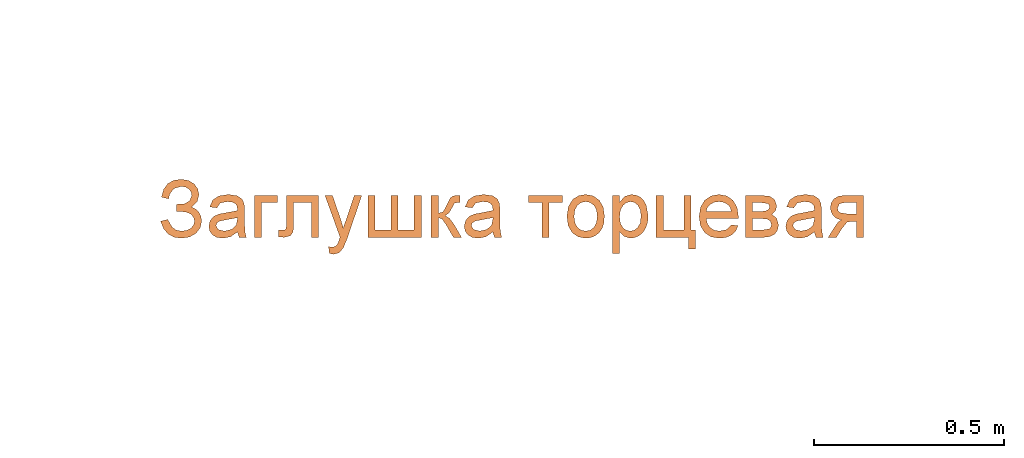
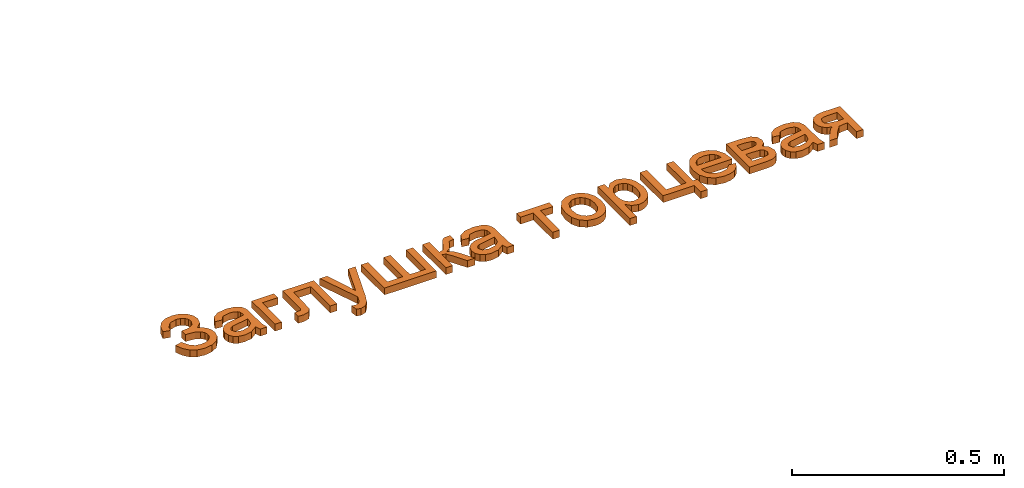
# One storey, part 23 of 87: 1 proxy.
"""IFC2X3 building model written with IfcOpenShell, lengths in millimetres."""

import ifcopenshell
import ifcopenshell.guid

model = None  # the IFC model being written
_history = None  # IfcOwnerHistory: only IFC2X3 demands one
_inside = {}  # id of a spatial element -> (the spatial element, [elements in it])
_under = {}  # id of a project, library or spatial element -> (it, [spatial elements below it])
_declared = {}  # id of a project -> (the project, [libraries it declares])
_typed = {}  # id of a type object -> (the type object, [elements of that type])
_made_of = {}  # id of a material, layer set ... -> (it, [elements and type objects made of it])


def new_model(schema):
    """Start an empty IFC model of exactly this schema.

    Asked for "IFC4X3", IfcOpenShell would pick the latest addendum, in which some entities
    have other attributes; the version numbers below select the first issue.
    IFC2X3 requires an IfcOwnerHistory on every rooted entity: one is made here for all.
    """
    global model, _history
    if schema == "IFC4X3":
        model = ifcopenshell.file(schema_version=(4, 3, 0, 0))
    else:
        model = ifcopenshell.file(schema=schema)
    _inside.clear()
    _under.clear()
    _declared.clear()
    _typed.clear()
    _made_of.clear()
    _history = None
    if model.schema == "IFC2X3":
        org = make("IfcOrganization", Name="unknown")
        user = make(
            "IfcPersonAndOrganization",
            ThePerson=make("IfcPerson", FamilyName="unknown"),
            TheOrganization=org,
        )
        app = make(
            "IfcApplication",
            ApplicationDeveloper=org,
            Version="unknown",
            ApplicationFullName="unknown",
            ApplicationIdentifier="unknown",
        )
        _history = make(
            "IfcOwnerHistory",
            OwningUser=user,
            OwningApplication=app,
            ChangeAction="ADDED",
            CreationDate=0,
        )
    return model


def make(cls, **values):
    """One entity of the class cls with the attributes given. An attribute that is None is left unset."""
    return model.create_entity(
        cls, **{name: value for name, value in values.items() if value is not None}
    )


def entity(cls, *values):
    """Any entity or typed value of the class cls, its attributes in the order of the schema. None: left unset."""
    e = model.create_entity(cls)
    for i, value in enumerate(values):
        if value is not None:
            e[i] = value
    return e


def rooted(cls, **values):
    """An entity with a GlobalId (a new one), such as an element, a storey or a relation."""
    return make(cls, GlobalId=ifcopenshell.guid.new(), OwnerHistory=_history, **values)


def si_unit(unit_type, name, prefix=None):
    """IfcSIUnit, for example si_unit("LENGTHUNIT", "METRE", prefix="MILLI")."""
    return make("IfcSIUnit", UnitType=unit_type, Prefix=prefix, Name=name)


def converted_unit(unit_type, name, factor, base, dimensions=None, offset=None):
    """IfcConversionBasedUnit, such as the inch: factor (a typed value) times the base unit."""
    return make(
        "IfcConversionBasedUnit"
        if offset is None
        else "IfcConversionBasedUnitWithOffset",
        ConversionOffset=offset,
        Dimensions=None
        if dimensions is None
        else entity("IfcDimensionalExponents", *dimensions),
        UnitType=unit_type,
        Name=name,
        ConversionFactor=make(
            "IfcMeasureWithUnit", ValueComponent=factor, UnitComponent=base
        ),
    )


def derived_unit(unit_type, elements):
    """IfcDerivedUnit: a product of units, each with its exponent."""
    return make(
        "IfcDerivedUnit",
        Elements=[
            make("IfcDerivedUnitElement", Unit=unit, Exponent=power)
            for unit, power in elements
        ],
        UnitType=unit_type,
    )


def assignment(units):
    """IfcUnitAssignment: the units of a project."""
    return None if units is None else make("IfcUnitAssignment", Units=units)


def point(xyz):
    """IfcCartesianPoint."""
    return None if xyz is None else make("IfcCartesianPoint", Coordinates=xyz)


def direction(xyz):
    """IfcDirection."""
    return None if xyz is None else make("IfcDirection", DirectionRatios=xyz)


def frame(location, z_axis=None, x_axis=None):
    """IfcAxis2Placement3D, a coordinate frame: its origin and axes. An axis left out is left unset."""
    return make(
        "IfcAxis2Placement3D",
        Location=point(location),
        Axis=direction(z_axis),
        RefDirection=direction(x_axis),
    )


def origin():
    """The frame at (0, 0, 0) with its axes left unset."""
    return frame((0.0, 0.0, 0.0))


def place(relative_to, where):
    """IfcLocalPlacement: puts the frame where relative to a parent placement (None: the world)."""
    return make(
        "IfcLocalPlacement", PlacementRelTo=relative_to, RelativePlacement=where
    )


def context(
    kind, dimensions, precision=None, world=None, true_north=None, identifier=None
):
    """IfcGeometricRepresentationContext, for example the 3D "Model" context."""
    return make(
        "IfcGeometricRepresentationContext",
        ContextIdentifier=identifier,
        ContextType=kind,
        CoordinateSpaceDimension=dimensions,
        Precision=precision,
        WorldCoordinateSystem=world,
        TrueNorth=true_north,
    )


def subcontext(parent, identifier, kind, view, scale=None):
    """IfcGeometricRepresentationSubContext, for example "Body" below "Model"."""
    return make(
        "IfcGeometricRepresentationSubContext",
        ContextIdentifier=identifier,
        ContextType=kind,
        ParentContext=parent,
        TargetScale=scale,
        TargetView=view,
    )


def project(units=None, contexts=None):
    """IfcProject with its units and contexts."""
    return rooted(
        "IfcProject",
        Name="project",
        RepresentationContexts=contexts,
        UnitsInContext=assignment(units),
    )


def spatial(cls, under=None, at=None, **own):
    """A site, building, storey or space (cls), placed at a placement, below another one or the project."""
    s = rooted(cls, ObjectPlacement=at, **own)
    if under is not None:
        _under.setdefault(under.id(), (under, []))[1].append(s)
    return s


def polyline(points):
    """IfcPolyline through the points."""
    return make("IfcPolyline", Points=[point(p) for p in points])


def outline(outer, holes=None, kind="AREA"):
    """IfcArbitraryClosedProfileDef: a profile drawn as a closed curve; with holes, ...WithVoids."""
    if holes is None:
        return make("IfcArbitraryClosedProfileDef", ProfileType=kind, OuterCurve=outer)
    return make(
        "IfcArbitraryProfileDefWithVoids",
        ProfileType=kind,
        OuterCurve=outer,
        InnerCurves=holes,
    )


def extrude(swept, where, along, depth):
    """IfcExtrudedAreaSolid: the profile swept, set in the frame where, extruded along a direction by depth."""
    return make(
        "IfcExtrudedAreaSolid",
        SweptArea=swept,
        Position=where,
        ExtrudedDirection=direction(along),
        Depth=depth,
    )


def shape(context_of_items, identifier, shape_type, items):
    """IfcShapeRepresentation: the items that make up one representation, for example the "Body"."""
    return make(
        "IfcShapeRepresentation",
        ContextOfItems=context_of_items,
        RepresentationIdentifier=identifier,
        RepresentationType=shape_type,
        Items=items,
    )


def made_of(thing, what):
    """Note that an element or type object is made of a material, layer set ...; save() writes the relation."""
    if what is not None:
        _made_of.setdefault(what.id(), (what, []))[1].append(thing)
    return thing


def element(
    cls,
    number,
    at=None,
    inside=None,
    cuts=None,
    type_object=None,
    material=None,
    context=None,
    identifier="Body",
    shape_type=None,
    held_by="IfcProductDefinitionShape",
    body=None,
    shapes=None,
    **own,
):
    """One element of the class cls, such as IfcWall. Its Tag is "e" and its number.

    at: its placement. inside: the storey or other place that contains it. cuts: it is an
    opening in that element (IfcRelVoidsElement). A single representation is given by context,
    identifier, shape_type and body (its items); several are given by shapes. held_by: the class
    of the entity that holds the representations. save() writes the other relations.
    """
    e = rooted(cls, Tag="e%d" % number, ObjectPlacement=at, **own)
    if body is not None:
        shapes = [shape(context, identifier, shape_type, body)]
    if shapes is not None:
        e.Representation = make(held_by, Representations=shapes)
    if inside is not None:
        _inside.setdefault(inside.id(), (inside, []))[1].append(e)
    if cuts is not None:
        rooted(
            "IfcRelVoidsElement", RelatingBuildingElement=cuts, RelatedOpeningElement=e
        )
    if type_object is not None:
        _typed.setdefault(type_object.id(), (type_object, []))[1].append(e)
    return made_of(e, material)


def aggregate(whole, parts):
    """IfcRelAggregates: a whole, such as a stair, and the parts it consists of."""
    return rooted("IfcRelAggregates", RelatingObject=whole, RelatedObjects=parts)


def save(model, path):
    """Write the relations noted so far, then the file.

    IfcRelAggregates (storeys below a building ...), IfcRelContainedInSpatialStructure (elements
    in a storey), IfcRelDefinesByType, IfcRelAssociatesMaterial and IfcRelDeclares: one each for
    every whole, place, type object, material and project.
    """
    for whole, parts in _under.values():
        aggregate(whole, parts)
    for where, things in _inside.values():
        rooted(
            "IfcRelContainedInSpatialStructure",
            RelatedElements=things,
            RelatingStructure=where,
        )
    for kind, things in _typed.values():
        rooted("IfcRelDefinesByType", RelatedObjects=things, RelatingType=kind)
    for what, things in _made_of.values():
        rooted("IfcRelAssociatesMaterial", RelatedObjects=things, RelatingMaterial=what)
    for by, libraries in _declared.values():
        rooted("IfcRelDeclares", RelatingContext=by, RelatedDefinitions=libraries)
    model.write(path)


model = new_model("IFC2X3")

# Units and contexts
model_context = context("Model", 3, precision=0.01, world=origin(), true_north=direction((6.12303176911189e-17, 1.0)))
body_context = subcontext(model_context, "Body", "Model", "MODEL_VIEW")
ifc_project = project(units=[si_unit("LENGTHUNIT", "METRE", prefix="MILLI"), si_unit("AREAUNIT", "SQUARE_METRE"), si_unit("VOLUMEUNIT", "CUBIC_METRE"), converted_unit("PLANEANGLEUNIT", "DEGREE", entity("IfcRatioMeasure", 0.0174532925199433), si_unit("PLANEANGLEUNIT", "RADIAN"), dimensions=[0, 0, 0, 0, 0, 0, 0]), si_unit("MASSUNIT", "GRAM", prefix="KILO"), derived_unit("MASSDENSITYUNIT", [(si_unit("MASSUNIT", "GRAM", prefix="KILO"), 1), (si_unit("LENGTHUNIT", "METRE"), -3)]), si_unit("TIMEUNIT", "SECOND"), si_unit("FREQUENCYUNIT", "HERTZ"), si_unit("THERMODYNAMICTEMPERATUREUNIT", "DEGREE_CELSIUS"), derived_unit("THERMALTRANSMITTANCEUNIT", [(si_unit("MASSUNIT", "GRAM", prefix="KILO"), 1), (si_unit("THERMODYNAMICTEMPERATUREUNIT", "KELVIN"), -1), (si_unit("TIMEUNIT", "SECOND"), -3)]), derived_unit("VOLUMETRICFLOWRATEUNIT", [(si_unit("LENGTHUNIT", "METRE"), 3), (si_unit("TIMEUNIT", "SECOND"), -1)]), si_unit("ELECTRICCURRENTUNIT", "AMPERE"), si_unit("ELECTRICVOLTAGEUNIT", "VOLT"), si_unit("POWERUNIT", "WATT"), si_unit("FORCEUNIT", "NEWTON", prefix="KILO"), si_unit("ILLUMINANCEUNIT", "LUX"), si_unit("LUMINOUSFLUXUNIT", "LUMEN"), si_unit("LUMINOUSINTENSITYUNIT", "CANDELA"), derived_unit("USERDEFINED", [(si_unit("MASSUNIT", "GRAM", prefix="KILO"), -1), (si_unit("LENGTHUNIT", "METRE"), -2), (si_unit("TIMEUNIT", "SECOND"), 3), (si_unit("LUMINOUSFLUXUNIT", "LUMEN"), 1)]), derived_unit("LINEARVELOCITYUNIT", [(si_unit("LENGTHUNIT", "METRE"), 1), (si_unit("TIMEUNIT", "SECOND"), -1)]), si_unit("PRESSUREUNIT", "PASCAL"), derived_unit("USERDEFINED", [(si_unit("LENGTHUNIT", "METRE"), -2), (si_unit("MASSUNIT", "GRAM", prefix="KILO"), 1), (si_unit("TIMEUNIT", "SECOND"), -2)])], contexts=[model_context])

# Site, building, storey
site_placement = place(None, origin())
site = spatial("IfcSite", under=ifc_project, at=site_placement, Name="Default", CompositionType="ELEMENT")
building_placement = place(site_placement, origin())
building = spatial("IfcBuilding", under=site, at=building_placement, Name="Наименование здания", CompositionType="ELEMENT")
storey_placement = place(building_placement, origin())
storey = spatial("IfcBuildingStorey", under=building, at=storey_placement, Name="Этаж 01", CompositionType="ELEMENT", Elevation=0.0)

# Proxy
proxy_placement = place(storey_placement, origin())
element("IfcBuildingElementProxy", 1, at=proxy_placement, inside=storey, Name="Текст модели:150 мм Arial", ObjectType="Текст модели:150 мм Arial", context=body_context, shape_type="SweptSolid", body=[
    extrude(outline(polyline([(6.4716175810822, -69.0212528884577), (27.6609359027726, -69.0212528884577), (45.0883237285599, -63.4972240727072), (58.7537810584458, -52.449166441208), (68.6573078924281, -35.8770799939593), (74.0512365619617, -14.3469748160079), (71.5654100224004, 5.25502871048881), (62.26089234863, 21.0946147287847), (47.198747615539, 31.3374673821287), (34.7435158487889, 34.4245924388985), (22.5903035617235, 33.2242089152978), (11.7653973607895, 28.3858634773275), (3.29508385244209, 20.5591027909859), (-3.8895451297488, 39.5517960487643), (-19.2191274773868, 51.2498673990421), (-34.5984709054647, 54.201108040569), (-50.4951132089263, 50.5063592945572), (-64.6841945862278, 40.2481258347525), (-74.9408552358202, 23.508912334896), (-79.9269719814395, 3.81351222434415), (-77.6558490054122, -13.7502430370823), (-68.1274863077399, -29.1823534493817), (-51.3418838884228, -42.4828190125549), (-39.7736651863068, -26.8902500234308), (-50.8769148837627, -18.9970900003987), (-59.8620682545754, -3.35972386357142), (-57.4730653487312, 16.4599122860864), (-51.4311229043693, 26.4493668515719), (-43.1748792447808, 32.632369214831), (-33.960682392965, 34.9327897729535), (-25.044880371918, 33.2744989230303), (-14.0492923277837, 22.578199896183), (-11.8439649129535, 7.54353942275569), (-18.6044381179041, -12.7324671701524), (-1.20714525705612, -19.9513626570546), (2.58559475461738, -10.810988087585), (10.0927476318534, 2.75756776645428), (19.4171629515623, 11.6588093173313), (29.8017800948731, 15.4600700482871), (40.4895384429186, 13.7286834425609), (48.9026459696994, 7.76330771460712), (54.0943068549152, -1.81417037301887), (55.2607991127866, -14.0130640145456), (51.598400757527, -27.842686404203), (43.8780402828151, -39.7893356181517), (32.616856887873, -46.950933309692), (9.34118985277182, -49.8192361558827), (6.4716175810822, -69.0212528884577)])), frame((8644.28769079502, -17489.3208747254, 0.0), z_axis=(0.0, 0.0, 1.0), x_axis=(0.383258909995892, -0.923640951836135, 0.0)), (0.0, 0.0, 1.0), 20.0),
    extrude(outline(polyline([(49.6524096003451, 10.0181831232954), (64.5432257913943, 10.0181831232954), (70.4995522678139, 27.8871625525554), (54.2883394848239, 29.335527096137), (22.9420080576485, 38.7760718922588), (0.710484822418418, 46.186579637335), (-15.2157084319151, 50.5258565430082), (-29.1700318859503, 49.089125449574), (-41.2222862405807, 39.5147959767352), (-51.6167739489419, 18.9177724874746), (-55.8804334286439, -5.8556596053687), (-50.8431495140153, -24.8298167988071), (-35.969783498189, -38.3769694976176), (-27.7798345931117, -21.2525308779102), (-37.1040448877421, -8.56625349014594), (-34.5156022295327, 10.6580228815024), (-29.3910674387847, 21.7272506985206), (-22.7658175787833, 28.6898706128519), (-16.3179778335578, 30.6413818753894), (-7.93316863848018, 29.2133758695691), (-3.98942903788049, 27.7824615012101), (-8.1774710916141, -5.25653692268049), (-10.6437625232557, -21.6131678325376), (-8.95109552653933, -36.0793630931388), (-1.68600590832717, -48.486437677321), (11.308557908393, -56.6182193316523), (24.077723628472, -58.3588743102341), (36.0005558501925, -54.7859509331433), (46.0329524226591, -45.8907241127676), (53.130811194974, -31.6644687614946), (55.9868232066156, -11.3466480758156), (49.6524096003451, 10.0181831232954)]), holes=[polyline([(13.9144507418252, 21.9308360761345), (18.9401012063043, 20.1392847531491), (31.818330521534, 12.7055101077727), (38.2807120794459, -2.40052491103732), (36.529877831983, -21.9040040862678), (27.4499699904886, -36.2305979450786), (16.0084717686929, -38.3304356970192), (9.94744424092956, -33.5956214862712), (7.5567702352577, -25.0624858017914), (9.78457593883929, -8.72330506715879), (13.9144507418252, 21.9308360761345)])]), frame((8760.2938367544, -17506.0682890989, 0.0), z_axis=(0.0, 0.0, 1.0), x_axis=(0.316227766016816, -0.948683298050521, 0.0)), (0.0, 0.0, 1.0), 20.0),
    extrude(outline(polyline([(-43.1648207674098, -26.6837073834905), (67.4940833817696, -26.6837073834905), (67.4940833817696, -7.84814923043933), (-24.3292626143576, -7.84814923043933), (-24.3292626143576, 34.5318566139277), (-43.1648207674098, 34.5318566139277), (-43.1648207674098, -26.6837073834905)])), frame((8856.91754832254, -17496.6372583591, 0.0), z_axis=(0.0, 0.0, 1.0), x_axis=(0.0, -1.0, 0.0)), (0.0, 0.0, 1.0), 20.0),
    extrude(outline(polyline([(-74.0534959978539, 18.8171640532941), (-74.0534959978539, -65.9428476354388), (36.4950435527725, -65.9428476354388), (36.4950435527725, -47.1072894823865), (-55.2179378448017, -47.1072894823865), (-55.2179378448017, -0.0183940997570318), (-2.42687153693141, -0.0183940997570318), (21.9269165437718, 1.25079878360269), (32.2092183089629, 8.2221625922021), (36.6054081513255, 24.7032759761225), (35.6489149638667, 40.0071669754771), (17.7698499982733, 40.0071669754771), (17.7698499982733, 31.5826692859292), (16.6110217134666, 23.0662010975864), (12.9322017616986, 19.663292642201), (-3.49372932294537, 18.8171640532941), (-74.0534959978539, 18.8171640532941)])), frame((8933.81101668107, -17527.5259335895, 0.0), z_axis=(0.0, 0.0, -1.0), x_axis=(0.0, -1.0, 0.0)), (0.0, 0.0, -1.0), 20.0),
    extrude(outline(polyline([(-14.0627784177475, -63.6897846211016), (-2.3098266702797, -63.6897846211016), (11.2235996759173, -56.6043892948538), (19.2677475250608, -41.4042581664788), (24.1483344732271, -15.3233337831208), (39.1861017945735, 103.403530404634), (19.8673420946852, 99.453368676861), (11.3764058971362, 32.0809099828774), (8.47999679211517, 9.33454668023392), (-3.68750084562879, 31.9296007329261), (-36.791408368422, 87.8681928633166), (-56.2543379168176, 83.8885523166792), (5.04686591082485, -16.1124679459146), (4.51901081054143, -20.8765214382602), (2.25144479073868, -35.496288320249), (-1.95815357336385, -42.2710621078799), (-10.3000835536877, -46.0982994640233), (-20.0027604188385, -46.3925118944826), (-14.0627784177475, -63.6897846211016)])), frame((9054.5437561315, -17546.929792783, 0.0), z_axis=(0.0, 0.0, 1.0), x_axis=(0.979728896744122, -0.200327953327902, 0.0)), (0.0, 0.0, 1.0), 20.0),
    extrude(outline(polyline([(-49.0509326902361, -70.6333430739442), (61.6079714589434, -70.6333430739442), (61.6079714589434, 70.6333430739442), (-49.0509326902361, 70.6333430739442), (-49.0509326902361, 51.797784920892), (42.7724133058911, 51.797784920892), (42.7724133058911, 9.41777907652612), (-49.0509326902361, 9.41777907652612), (-49.0509326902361, -9.41777907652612), (42.7724133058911, -9.41777907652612), (42.7724133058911, -51.797784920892), (-49.0509326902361, -51.797784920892), (-49.0509326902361, -70.6333430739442)])), frame((9199.88166969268, -17502.5233702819, 0.0), z_axis=(0.0, 0.0, 1.0), x_axis=(0.0, -1.0, 0.0)), (0.0, 0.0, 1.0), 20.0),
    extrude(outline(polyline([(-45.4943568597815, -44.3029556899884), (65.164547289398, -44.3029556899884), (65.164547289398, -25.4673975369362), (13.3667623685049, -25.4673975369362), (16.8432472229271, -15.3506426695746), (31.2090391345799, -5.41782879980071), (65.164547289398, 14.337434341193), (65.164547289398, 35.748166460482), (30.4732751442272, 15.5882331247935), (15.0314283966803, 3.9263738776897), (7.70137964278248, -7.95621456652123), (1.13468602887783, 2.69396919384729), (-12.2746126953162, 10.2907323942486), (-24.6722359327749, 16.7654555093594), (-26.6587987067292, 25.9625053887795), (-26.5484341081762, 31.0392769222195), (-45.4943568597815, 31.0392769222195), (-45.4943568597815, 27.4340333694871), (-44.0596170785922, 13.6568526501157), (-38.522993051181, 6.07848354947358), (-21.5084507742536, -2.51156103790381), (-1.78997583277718, -12.8490451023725), (1.59453852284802, -25.4673975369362), (-45.4943568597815, -25.4673975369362), (-45.4943568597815, -44.3029556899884)])), frame((9340.71686091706, -17498.9667944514, 0.0), z_axis=(0.0, 0.0, 1.0), x_axis=(0.0, -1.0, 0.0)), (0.0, 0.0, 1.0), 20.0),
    extrude(outline(polyline([(49.6524096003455, 10.018183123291), (64.543225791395, 10.018183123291), (70.4995522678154, 27.8871625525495), (54.2883394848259, 29.3355270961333), (22.9420080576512, 38.7760718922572), (0.710484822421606, 46.1865796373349), (-15.2157084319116, 50.5258565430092), (-29.1700318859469, 49.089125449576), (-41.222286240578, 39.514795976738), (-51.6167739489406, 18.9177724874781), (-55.8804334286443, -5.85565960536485), (-50.843149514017, -24.8298167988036), (-35.9697834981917, -38.3769694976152), (-27.7798345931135, -21.2525308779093), (-37.1040448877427, -8.56625349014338), (-34.515602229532, 10.6580228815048), (-29.3910674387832, 21.7272506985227), (-22.7658175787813, 28.6898706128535), (-16.3179778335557, 30.6413818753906), (-7.93316863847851, 29.2133758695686), (-3.98942903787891, 27.7824615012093), (-8.1774710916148, -5.25653692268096), (-10.6437625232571, -21.6131678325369), (-8.95109552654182, -36.0793630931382), (-1.68600590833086, -48.4864376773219), (11.3085579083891, -56.6182193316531), (24.0777236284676, -58.3588743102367), (36.0005558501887, -54.7859509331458), (46.0329524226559, -45.8907241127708), (53.1308111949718, -31.6644687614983), (55.9868232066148, -11.3466480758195), (49.6524096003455, 10.018183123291)]), holes=[polyline([(13.9144507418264, 21.9308360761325), (18.9401012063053, 20.1392847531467), (31.8183305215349, 12.7055101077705), (38.2807120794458, -2.40052491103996), (36.5298778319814, -21.9040040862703), (27.4499699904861, -36.2305979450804), (16.0084717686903, -38.3304356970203), (9.9474442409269, -33.5956214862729), (7.55677023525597, -25.0624858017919), (9.78457593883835, -8.72330506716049), (13.9144507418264, 21.9308360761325)])]), frame((9433.665040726, -17506.0682890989, 0.0), z_axis=(0.0, 0.0, 1.0), x_axis=(0.316227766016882, -0.948683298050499, 0.0)), (0.0, 0.0, 1.0), 20.0),
    extrude(outline(polyline([(-37.0825051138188, -44.7344506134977), (-18.2469469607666, -44.7344506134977), (-18.2469469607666, -9.41777907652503), (73.5763990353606, -9.41777907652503), (73.5763990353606, 9.41777907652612), (-18.2469469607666, 9.41777907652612), (-18.2469469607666, 44.7344506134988), (-37.0825051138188, 44.7344506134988), (-37.0825051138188, -44.7344506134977)])), frame((9597.7828356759, -17490.5549427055, 0.0), z_axis=(0.0, 0.0, 1.0), x_axis=(0.0, -1.0, 0.0)), (0.0, 0.0, 1.0), 20.0),
    extrude(outline(polyline([(-11.1946000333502, -52.2426443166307), (13.7256178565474, -52.2426443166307), (33.0962748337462, -44.5759588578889), (46.3022849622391, -30.466599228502), (52.7285623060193, -11.1385767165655), (52.8795704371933, 2.26160042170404), (49.5396030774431, 15.0586597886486), (42.9102470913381, 26.3612191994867), (33.1930893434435, 35.2778964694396), (19.4724914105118, 41.8007990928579), (0.832814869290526, 45.9220345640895), (-22.8762356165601, 45.7172545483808), (-41.8930612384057, 37.8901775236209), (-55.1425891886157, 23.7682718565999), (-61.5497466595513, 4.67900591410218), (-60.9951142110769, -13.6515433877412), (-53.9645370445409, -29.8701936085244), (-37.0646721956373, -44.5487589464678), (-11.1946000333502, -52.2426443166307)]), holes=[polyline([(-8.64857835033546, -33.5799173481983), (-25.2263685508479, -29.0848574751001), (-36.3325046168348, -20.9461821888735), (-42.15754885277, -10.205259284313), (-42.8920635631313, 2.09654344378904), (-38.8516378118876, 13.61208934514), (-30.301421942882, 22.3586496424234), (-17.5331679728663, 27.2345846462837), (-0.838627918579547, 27.1382546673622), (16.1172354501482, 22.5908646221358), (27.4101305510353, 14.4263394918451), (33.3060231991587, 3.69417972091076), (34.0708792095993, -8.55611424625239), (30.0134303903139, -20.194647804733), (21.4625840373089, -28.9457632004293), (8.53602088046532, -33.7580048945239), (-8.64857835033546, -33.5799173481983)])]), frame((9707.57364050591, -17512.7280080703, 0.0), z_axis=(0.0, 0.0, 1.0), x_axis=(0.137105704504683, -0.990556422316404, 0.0)), (0.0, 0.0, 1.0), 20.0),
    extrude(outline(polyline([(-51.3898957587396, -92.5503727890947), (-32.5543376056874, -92.5503727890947), (-32.5543376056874, -35.4550871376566), (-20.616566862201, -47.6871634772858), (-4.22742397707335, -52.5248117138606), (7.98165973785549, -50.7175914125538), (19.5929352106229, -45.2959305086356), (29.5625372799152, -36.4851567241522), (36.8466007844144, -24.5105977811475), (41.3025714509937, -10.1034191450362), (42.7878950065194, 6.0052137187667), (37.5271824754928, 35.0311031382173), (30.9972770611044, 46.7849328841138), (21.9289858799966, 55.558918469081), (10.7913584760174, 61.0219660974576), (-1.94655560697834, 62.8429819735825), (-19.531314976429, 57.6374517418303), (-32.5543376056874, 42.0208610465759), (-32.5543376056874, 60.4885372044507), (-51.3898957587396, 60.4885372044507), (-51.3898957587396, -92.5503727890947)]), holes=[polyline([(-32.5543376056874, 4.27616834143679), (-30.3792353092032, 21.3596884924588), (-23.8539284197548, 33.8354866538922), (-14.5051272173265, 41.4644395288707), (-3.85954198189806, 44.0074238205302), (6.7446565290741, 41.61619085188), (15.7485683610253, 34.4424919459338), (21.9013947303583, 22.467933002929), (23.9523368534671, 5.67411992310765), (21.8508109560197, -11.8462600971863), (15.5462332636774, -24.0875334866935), (6.29859960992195, -31.2888235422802), (-4.63209417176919, -33.6892535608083), (-15.3880440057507, -31.3715969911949), (-24.4057514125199, -24.4186272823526), (-30.5171910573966, -12.6096152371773), (-32.5543376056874, 4.27616834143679)])]), frame((9825.7560891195, -17513.9609747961, 0.0)), (0.0, 0.0, 1.0), 20.0),
    extrude(outline(polyline([(-72.5953803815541, -62.0003789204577), (38.0635237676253, -62.0003789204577), (38.0635237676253, 22.7596327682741), (68.6713057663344, 22.7596327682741), (68.6713057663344, 41.5951909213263), (19.2279656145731, 41.5951909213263), (19.2279656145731, 29.8229670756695), (-72.5953803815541, 29.8229670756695), (-72.5953803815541, 10.9874089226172), (19.2279656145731, 10.9874089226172), (19.2279656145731, -43.1648207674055), (-72.5953803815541, -43.1648207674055), (-72.5953803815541, -62.0003789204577)])), frame((9951.73436596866, -17526.0678179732, 0.0), z_axis=(0.0, 0.0, 1.0), x_axis=(0.0, -1.0, 0.0)), (0.0, 0.0, 1.0), 20.0),
    extrude(outline(polyline([(-12.1519235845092, -30.5627594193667), (-23.302832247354, -45.4710024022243), (-8.67600558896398, -50.3662606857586), (6.1827763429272, -49.9698260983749), (20.8164252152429, -44.1721168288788), (34.7678526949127, -32.8635510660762), (47.4570640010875, -14.388569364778), (51.2430729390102, 5.6120299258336), (45.9060763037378, 25.8663302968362), (31.2262708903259, 45.1024152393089), (10.9154740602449, 59.6770093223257), (-9.99269287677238, 64.6676720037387), (-29.9463894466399, 60.6331852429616), (-47.3937751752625, 48.1323309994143), (-58.8653278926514, 30.7635073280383), (-61.9660241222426, 11.0147969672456), (-56.1560561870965, -9.52443743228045), (-40.8956164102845, -29.2648332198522), (-37.1706876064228, -32.7160206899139), (21.6964908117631, 28.1133970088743), (29.5607979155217, 15.9656989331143), (31.7422008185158, 3.31507577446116), (28.7208128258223, -8.97205129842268), (20.9767472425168, -20.0292611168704), (5.30526907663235, -30.5627594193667), (-12.1519235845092, -30.5627594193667)]), holes=[polyline([(8.161218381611, 41.212047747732), (-37.6840592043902, -6.16140575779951), (-43.0633748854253, 2.58957596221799), (-44.7058228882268, 11.1286426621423), (-41.8277013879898, 23.6248066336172), (-33.8073361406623, 35.0865524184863), (-23.7122716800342, 42.9855035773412), (-12.6145549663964, 46.8552978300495), (-1.62109020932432, 46.3720932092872), (8.161218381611, 41.212047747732)])]), frame((10056.8734460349, -17518.6475155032, 0.0), z_axis=(0.0, 0.0, -1.0), x_axis=(-0.695421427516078, -0.718602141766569, 0.0)), (0.0, 0.0, -1.0), 20.0),
    extrude(outline(polyline([(-56.9428773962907, -61.1019147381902), (53.7160267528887, -61.1019147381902), (53.7160267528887, -13.2404671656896), (51.7202669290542, 3.22225211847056), (45.732987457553, 15.2335992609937), (35.6254296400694, 22.8211654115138), (21.2688347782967, 26.0125417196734), (3.51852851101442, 20.9725583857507), (-6.69019685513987, 8.31741775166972), (-16.0160054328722, 18.0662906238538), (-29.0942103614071, 21.3036521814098), (-45.189047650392, 15.9509691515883), (-54.4228857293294, 3.14867571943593), (-56.9428773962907, -19.6048256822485), (-56.9428773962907, -61.1019147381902)]), holes=[polyline([(-14.5628715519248, -42.2663565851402), (-38.1073192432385, -42.2663565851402), (-38.1073192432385, -23.0629164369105), (-35.4953570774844, -3.30765329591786), (-31.8809164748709, 1.02415719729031), (-26.2615189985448, 2.46809402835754), (-19.345337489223, -0.824449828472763), (-15.5193647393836, -8.29245433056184), (-14.5628715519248, -23.651527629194), (-14.5628715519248, -42.2663565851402)]), polyline([(34.8804685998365, -42.2663565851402), (4.27268660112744, -42.2663565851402), (4.27268660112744, -21.0027772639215), (5.37633258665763, -4.42969338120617), (10.6554392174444, 3.9580161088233), (19.7237303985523, 7.17698356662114), (26.8376484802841, 5.56749983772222), (31.477560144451, 1.32765984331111), (34.8804685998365, -19.1633672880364), (34.8804685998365, -42.2663565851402)])]), frame((10186.2803786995, -17510.4153149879, 0.0), z_axis=(0.0, 0.0, 1.0), x_axis=(0.0, -1.0, 0.0)), (0.0, 0.0, 1.0), 20.0),
    extrude(outline(polyline([(49.6524096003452, 10.01818312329), (64.5432257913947, 10.01818312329), (70.4995522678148, 27.8871625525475), (54.2883394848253, 29.3355270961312), (22.9420080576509, 38.7760718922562), (0.710484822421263, 46.1865796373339), (-15.2157084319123, 50.5258565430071), (-29.1700318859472, 49.089125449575), (-41.2222862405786, 39.514795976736), (-51.6167739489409, 18.9177724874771), (-55.8804334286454, -5.85565960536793), (-50.8431495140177, -24.8298167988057), (-35.969783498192, -38.3769694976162), (-27.7798345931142, -21.2525308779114), (-37.104044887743, -8.56625349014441), (-34.5156022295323, 10.6580228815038), (-29.3910674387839, 21.7272506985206), (-22.7658175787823, 28.6898706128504), (-16.317977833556, 30.6413818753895), (-7.93316863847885, 29.2133758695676), (-3.98942903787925, 27.7824615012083), (-8.17747109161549, -5.25653692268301), (-10.6437625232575, -21.6131678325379), (-8.95109552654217, -36.0793630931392), (-1.68600590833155, -48.486437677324), (11.3085579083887, -56.6182193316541), (24.0777236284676, -58.3588743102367), (36.0005558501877, -54.7859509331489), (46.0329524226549, -45.8907241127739), (53.1308111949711, -31.6644687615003), (55.9868232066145, -11.3466480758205), (49.6524096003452, 10.01818312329)]), holes=[polyline([(13.914450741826, 21.9308360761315), (18.940101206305, 20.1392847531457), (31.8183305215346, 12.7055101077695), (38.2807120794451, -2.40052491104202), (36.5298778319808, -21.9040040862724), (27.4499699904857, -36.2305979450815), (16.0084717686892, -38.3304356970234), (9.94744424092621, -33.595621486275), (7.55677023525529, -25.0624858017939), (9.78457593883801, -8.72330506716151), (13.914450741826, 21.9308360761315)])]), frame((10281.2651576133, -17506.0682890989, 0.0), z_axis=(0.0, 0.0, 1.0), x_axis=(0.316227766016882, -0.948683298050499, 0.0)), (0.0, 0.0, 1.0), 20.0),
    extrude(outline(polyline([(-56.4073463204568, -58.5456604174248), (-7.25831176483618, -58.5456604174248), (9.02966357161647, -56.3291713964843), (20.9582372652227, -49.6797043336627), (28.2698919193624, -39.4709789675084), (30.707110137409, -26.5767150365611), (28.9228824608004, -15.209161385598), (23.5701994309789, -5.23955931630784), (14.5203023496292, 2.2560363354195), (1.64443251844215, 6.20157073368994), (9.33316621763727, 11.0208248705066), (17.6840875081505, 21.873343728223), (36.5932220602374, 52.1132437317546), (14.814607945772, 52.1132437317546), (-0.19497745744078, 28.2009140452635), (-13.3283646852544, 12.1244708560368), (-27.3078805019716, 9.73323788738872), (-37.5717881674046, 9.73323788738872), (-37.5717881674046, 52.1132437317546), (-56.4073463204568, 52.1132437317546), (-56.4073463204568, -58.5456604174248)]), holes=[polyline([(-37.5717881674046, -39.7101022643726), (-37.5717881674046, -9.10232026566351), (-18.2947716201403, -9.10232026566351), (5.23128197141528, -12.9834753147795), (10.2114844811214, -17.9636778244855), (11.8715519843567, -25.1419752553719), (7.36499754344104, -35.3507006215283), (0.0855325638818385, -38.6202518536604), (-12.7397534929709, -39.7101022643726), (-37.5717881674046, -39.7101022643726)])]), frame((10379.5578271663, -17512.0180980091, 0.0), z_axis=(0.0, 0.0, 1.0), x_axis=(-1.0, 0.0, 0.0)), (0.0, 0.0, 1.0), 20.0),
])

save(model, "model.ifc")
